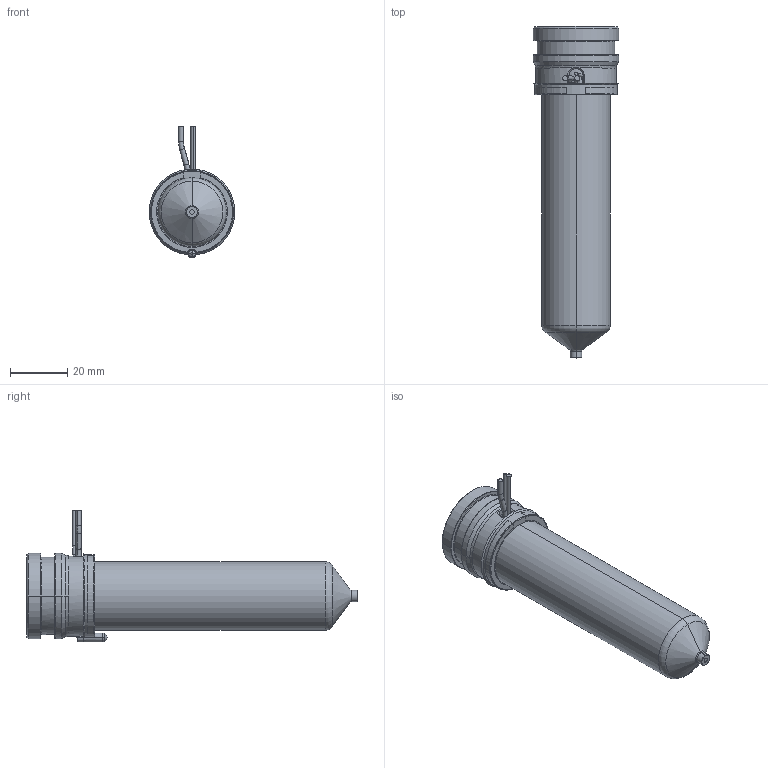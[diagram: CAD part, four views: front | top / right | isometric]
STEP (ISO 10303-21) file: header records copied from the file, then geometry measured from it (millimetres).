
FILE_DESCRIPTION((''),'2;1');
FILE_NAME('MPN-10-29-VP4-096-A','2026-02-05T12:42:35',('UPTIO'),('Thermoplay S.p.A.'),'CREO PARAMETRIC BY PTC INC, 2023494','CREO PARAMETRIC BY PTC INC, 2023494','');
FILE_SCHEMA(('CONFIG_CONTROL_DESIGN','SHAPE_APPEARANCE_LAYERS_GROUPS'));
Length unit declared in the file: millimetre
Products named in the file (1): MPN-10-29-VP4-096-A
Bounding box: 30 x 116.1 x 46 mm (x, y, z)
Volume: 36958.5 mm3; surface area: 37044.8 mm2
Topology: 2 solids, 3 shells, 581 faces, 1546 edges, 963 vertices
Faces by surface type: cylinder 180, plane 154, bspline 98, torus 70, cone 68, sphere 7, extrusion 4
Entity records: 30319 total; most frequent: CARTESIAN_POINT 13384, ORIENTED_EDGE 3080, DIRECTION 2693, EDGE_CURVE 1540, AXIS2_PLACEMENT_3D 1064, VERTEX_POINT 963, EDGE_LOOP 609, CIRCLE 584
